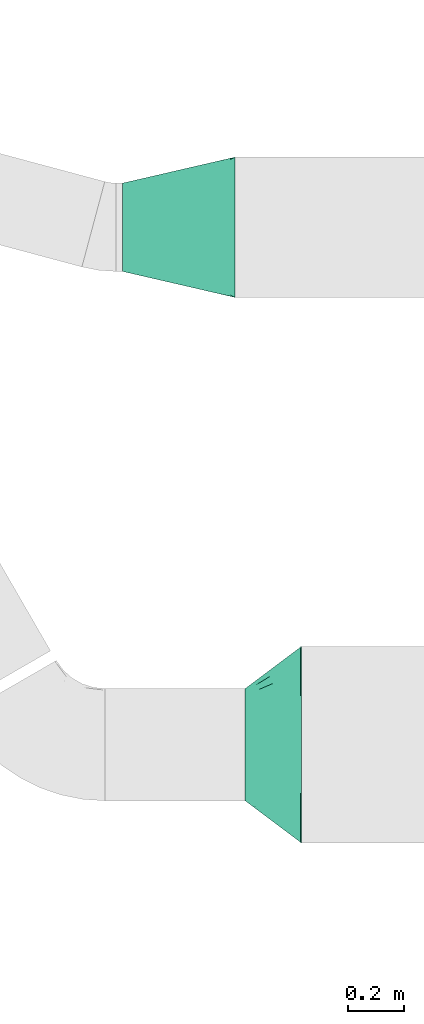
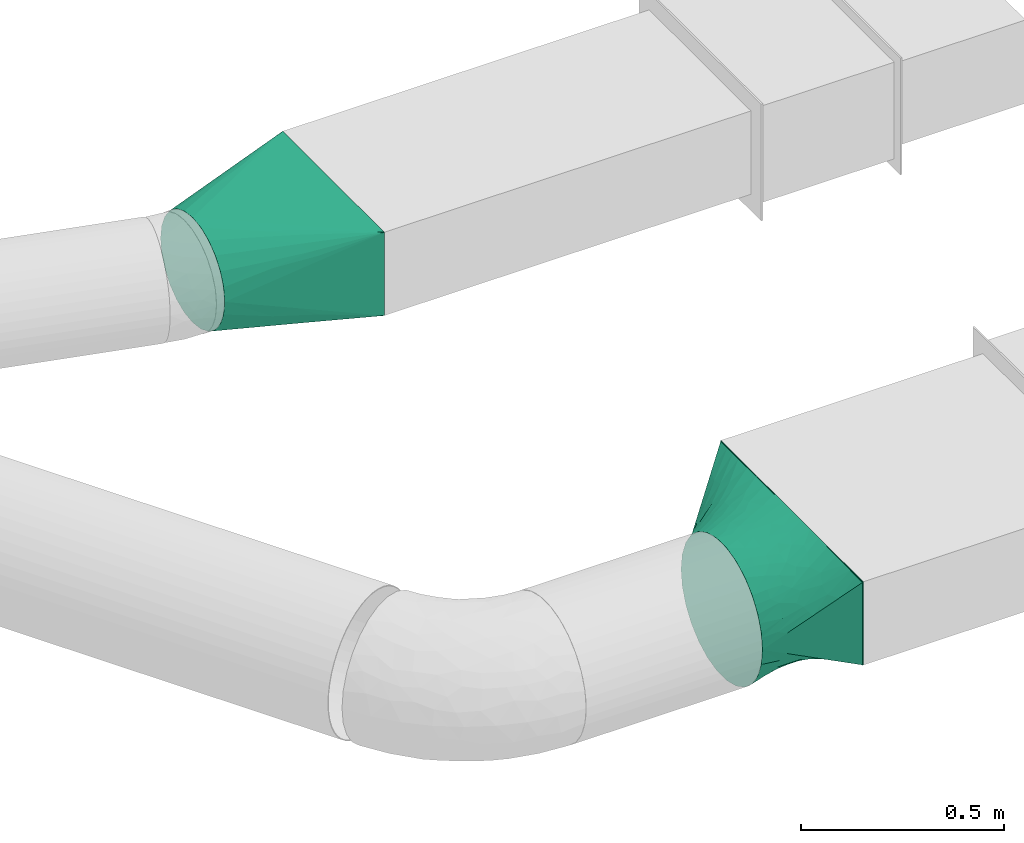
# One storey, part 33 of 36: 2 flow fittings.
"""IFC2X3 building model written with IfcOpenShell, lengths in millimetres."""

from ifc_helpers import new_model, entity, si_unit, converted_unit, derived_unit, direction, frame, origin_with_axes, place, context, subcontext, project, spatial, open_shell, surface_model, source, transform, mapped, type_object, element, save


model = new_model("IFC2X3")

# Units and contexts
model_context = context("Model", 3, precision=0.01, world=frame((0.0, 4.29681676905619e-09, 0.0)), true_north=direction((4.01073788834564e-13, 1.0)))
plan_context = context("Plan", 3, precision=0.01, world=frame((0.0, 4.29681676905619e-09, 0.0)), true_north=direction((4.01073788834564e-13, 1.0)))
body_context = subcontext(model_context, "Body", "Model", "MODEL_VIEW")
ifc_project = project(units=[converted_unit("PLANEANGLEUNIT", "DEGREE", entity("IfcPositiveLengthMeasure", 0.0174532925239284), si_unit("PLANEANGLEUNIT", "RADIAN"), dimensions=[0, 0, 0, 0, 0, 0, 0]), si_unit("AREAUNIT", "SQUARE_METRE"), si_unit("LENGTHUNIT", "METRE", prefix="MILLI"), si_unit("MASSUNIT", "GRAM", prefix="KILO"), si_unit("POWERUNIT", "WATT"), si_unit("PRESSUREUNIT", "PASCAL"), si_unit("FORCEUNIT", "NEWTON", prefix="KILO"), si_unit("ELECTRICCURRENTUNIT", "AMPERE"), si_unit("THERMODYNAMICTEMPERATUREUNIT", "DEGREE_CELSIUS"), si_unit("TIMEUNIT", "SECOND"), si_unit("VOLUMEUNIT", "CUBIC_METRE"), derived_unit("LINEARVELOCITYUNIT", [(si_unit("LENGTHUNIT", "METRE"), 1), (si_unit("TIMEUNIT", "SECOND"), -1)]), derived_unit("VOLUMETRICFLOWRATEUNIT", [(si_unit("VOLUMEUNIT", "CUBIC_METRE"), 1), (si_unit("TIMEUNIT", "SECOND"), -1)]), derived_unit("THERMALTRANSMITTANCEUNIT", [(si_unit("POWERUNIT", "WATT"), 1), (si_unit("THERMODYNAMICTEMPERATUREUNIT", "KELVIN"), -1), (si_unit("AREAUNIT", "SQUARE_METRE"), -1)])], contexts=[model_context, plan_context])

# Site, building, storey
site_placement = place(None, frame((0.0, -4.29681676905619e-09, 0.0), z_axis=(0.0, 0.0, 1.0), x_axis=(1.0, 0.0, 0.0)))
site = spatial("IfcSite", under=ifc_project, at=site_placement, CompositionType="ELEMENT")
building_placement = place(site_placement, frame((0.0, 4.29681676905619e-09, 0.0), z_axis=(0.0, 0.0, 1.0), x_axis=(1.0, 0.0, 0.0)))
building = spatial("IfcBuilding", under=site, at=building_placement, Name="mc-building", CompositionType="ELEMENT")
storey_placement = place(building_placement, frame((0.0, 0.0, 204000.0), z_axis=(0.0, 0.0, 1.0), x_axis=(1.0, 0.0, 0.0)))
storey = spatial("IfcBuildingStorey", under=building, at=storey_placement, Name="Nivå D", CompositionType="ELEMENT", Elevation=204000.0)

# Flow fittings
duct_fitting_type_1 = type_object("IfcDuctFittingType", Name="Lindab LORU", PredefinedType="TRANSITION")
shared_shape_1 = source(origin_with_axes(), body_context, "Body", "SurfaceModel", [
    surface_model("IfcShellBasedSurfaceModel", [(0.0, -350.0, 125.0), (0.0, 350.0, 125.0), (0.0, 350.0, -125.0), (0.0, -350.0, -125.0), (198.0, -24.10734, 98.54178), (198.0, 24.10734, 98.54178), (198.0, 70.92098, 87.00325), (198.0, 113.61295, 64.59677), (198.0, -70.92098, 87.00325), (198.0, 177.09121, -7.05537), (198.0, 149.70215, 32.62453), (198.0, 194.18836, -52.13687), (198.0, -177.09121, -7.05537), (198.0, -113.61295, 64.59677), (198.0, -149.70215, 32.62453), (198.0, -200.0, -100.0), (198.0, -194.18836, -52.13687), (198.0, 200.0, -100.0), (198.0, 149.70215, -232.62454), (198.0, 194.18836, -147.86313), (198.0, 177.09121, -192.94464), (198.0, 113.61295, -264.59677), (198.0, 70.92098, -287.00325), (198.0, -194.18836, -147.86313), (198.0, -149.70215, -232.62454), (198.0, -177.09121, -192.94464), (198.0, -70.92098, -287.00325), (198.0, -24.10734, -298.54177), (198.0, -113.61295, -264.59677), (198.0, 24.10734, -298.54177), (200.0, 70.92098, -287.00325), (200.0, 113.61295, -264.59677), (200.0, 149.70215, -232.62454), (200.0, -24.10734, -298.54177), (200.0, 194.18836, -147.86313), (200.0, 200.0, -100.0), (200.0, 177.09121, -192.94464), (200.0, -149.70215, -232.62454), (200.0, -70.92098, -287.00325), (200.0, 24.10734, -298.54177), (200.0, -113.61295, -264.59677), (200.0, -194.18836, -147.86313), (200.0, -177.09121, -192.94464), (200.0, 177.09121, -7.05537), (200.0, -70.92098, 87.00325), (200.0, 113.61295, 64.59677), (200.0, 149.70215, 32.62453), (200.0, -24.10734, 98.54178), (200.0, 70.92098, 87.00325), (200.0, 24.10734, 98.54178), (200.0, -200.0, -100.0), (200.0, -177.09121, -7.05537), (200.0, -194.18836, -52.13687), (200.0, -113.61295, 64.59677), (200.0, -149.70215, 32.62453), (200.0, 194.18836, -52.13687), (2.0, 350.0, 125.0), (2.0, -350.0, 125.0), (2.0, -350.0, -125.0), (2.0, 350.0, -125.0), (150.86866, -236.8485, -106.14141), (101.73732, -273.69701, -112.28284), (118.38462, -241.02984, -133.35218), (155.8511, -22.06059, -260.46584), (140.81261, 0.0, -248.21103), (174.63736, -2.7543, -277.7916), (49.81025, 60.16924, -166.67262), (78.66871, 65.87121, -190.08882), (74.1801, 39.18534, -188.66677), (200.0, 47.51416, -292.77252), (153.96537, 47.99806, -255.47073), (174.45748, 63.80583, -268.84451), (143.22139, -70.49342, -241.82236), (171.31887, -84.41632, -259.58882), (140.80272, -94.29218, -233.09173), (200.0, -185.63978, -170.40388), (169.31912, -180.92902, -190.32465), (0.0, -87.5, -125.0), (0.0, -43.75, -125.0), (37.07289, -65.45856, -155.78053), (83.89772, -184.7604, -165.70487), (114.04424, -187.86417, -174.6824), (80.89149, -210.48595, -154.73627), (127.65985, 29.63112, -235.40696), (153.719, 22.58113, -258.57221), (171.50625, -161.39413, -211.63479), (200.0, -131.65755, -248.61066), (87.6909, -264.30129, -127.25434), (0.0, 131.25, -125.0), (0.0, 175.0, -125.0), (47.24983, 150.44168, -155.1024), (99.12187, -139.79786, -189.33806), (80.70389, -160.80724, -172.17105), (71.17894, -138.58073, -172.28574), (46.27455, 32.45166, -164.97549), (104.66807, 73.24301, -210.20723), (127.65985, 57.83166, -231.73313), (101.35433, 48.13041, -211.04397), (161.15793, -218.39174, -134.46554), (143.52901, 174.52619, -192.11829), (174.50902, 165.1938, -208.67215), (154.51991, 156.06586, -209.97723), (123.73027, -26.08123, -232.29609), (108.36815, 188.56889, -172.62985), (133.9646, 196.11116, -172.67756), (161.15793, 218.39174, -134.46554), (200.0, 197.09418, -123.93157), (157.6743, 201.40949, -165.37902), (118.38462, 241.02986, -133.35218), (85.8346, 244.8689, -138.97016), (108.27595, 216.08737, -155.86994), (82.89454, 227.53573, -147.64925), (109.19257, -164.75566, -184.94536), (200.0, 185.63978, -170.40388), (161.7797, 185.02397, -185.29401), (85.80051, 266.49496, -126.55457), (149.05673, 71.80944, -246.16975), (140.81261, 94.29197, -233.09916), (170.40631, 104.46708, -250.31953), (143.52901, -174.52619, -192.11831), (0.0, -306.24998, -125.0), (27.86597, -307.39879, -124.63814), (72.98974, -69.23686, -185.05137), (59.15633, -100.35019, -170.37156), (200.0, -163.39668, -212.78458), (34.12392, 181.19332, -143.4434), (79.06917, 174.91049, -166.98528), (143.54772, -155.55668, -205.61757), (99.96715, -97.13381, -201.7485), (98.89133, 97.57199, -200.84196), (126.82729, 133.23272, -208.61922), (119.35641, 160.32192, -191.82145), (153.96537, -47.99807, -255.47071), (200.0, -47.51416, -292.77252), (101.32963, -48.13049, -211.02308), (72.6947, -41.59299, -187.23999), (94.65156, -4.73708, -207.79649), (101.73732, 273.69701, -112.28284), (150.86866, 236.8485, -106.14141), (121.82133, -118.27247, -211.31817), (154.53272, 136.13233, -223.21138), (200.0, 131.65755, -248.61066), (74.56813, 152.24485, -171.11614), (95.83323, 22.02618, -208.33588), (127.6475, -50.64183, -232.89004), (126.82729, -140.90518, -205.16202), (165.11803, -111.34086, -243.32975), (200.0, 92.26696, -275.80001), (147.3518, 116.03167, -229.27227), (82.64169, -242.17904, -140.56864), (108.27595, -216.08736, -155.86994), (157.6743, -201.40949, -165.37904), (76.30299, -292.77275, -115.46213), (59.18695, -288.66143, -123.85906), (50.81936, -226.22187, -142.14931), (25.75548, -283.04299, -127.94175), (39.4416, -253.97543, -133.87204), (55.4036, -270.62729, -130.49075), (81.69069, 208.2616, -155.84356), (25.75548, 283.04301, -127.94175), (0.0, 306.24998, -125.0), (27.86597, 307.39879, -124.63814), (59.18695, 288.66143, -123.85906), (55.4036, 270.62729, -130.49075), (138.11045, -194.42409, -174.49585), (35.89134, -192.68591, -142.82079), (0.0, -175.0, -125.0), (49.01088, -155.28053, -155.42721), (24.61813, -225.2667, -134.30002), (0.0, -262.5, -125.0), (0.0, -240.62499, -125.0), (0.0, -218.75, -125.0), (41.76864, -126.50611, -154.56738), (27.80259, -100.80308, -146.42514), (25.93937, -10.93698, -147.66485), (0.0, -21.875, -125.0), (0.0, 0.0, -125.0), (28.58193, -38.42872, -149.57192), (0.0, 43.75, -125.0), (29.39303, 80.42003, -148.75586), (0.0, 87.5, -125.0), (29.63074, 108.77102, -147.32177), (58.89566, 86.42437, -171.81831), (64.30031, 119.96655, -171.24934), (0.0, 218.75, -125.0), (26.711, 232.43136, -134.20836), (49.71617, 207.15941, -146.0982), (30.19418, 256.8191, -131.93241), (56.12243, 238.81491, -139.99467), (0.0, -131.25, -125.0), (200.0, -197.09418, -123.93157), (99.12187, 139.79788, -189.33806), (111.81173, -73.04105, -215.99708), (51.87875, -21.86615, -170.13028), (49.07665, 5.30102, -167.92745), (76.30299, 292.77275, -115.46213), (25.43433, 330.92424, -121.82071), (154.53272, -136.13232, -223.21138), (200.0, 0.0, -298.54177), (200.0, 163.39668, -212.78458), (50.86866, -311.84852, -118.64141), (50.86866, 311.84852, -118.64141), (0.0, 262.5, -125.0), (200.0, -92.26696, -275.80001), (25.43433, -330.92424, -121.82071), (165.83081, 103.43359, 81.78558), (133.6904, 118.33917, 85.53678), (129.59446, 94.52075, 95.06027), (162.20431, 47.97531, 100.20703), (163.15141, 13.48569, 104.25001), (162.14483, 79.49143, 92.10325), (200.0, 163.39668, 12.78458), (165.19762, 178.68308, 27.42477), (163.62984, 161.49085, 45.41874), (155.54627, 135.96685, 68.32468), (100.84863, -218.11456, 53.3268), (49.16656, -223.14061, 93.24694), (59.14225, -250.18827, 77.78128), (38.986, 125.89127, 113.70224), (98.20789, 139.85329, 90.55793), (44.34353, 150.61802, 108.93806), (61.14725, -189.45657, 93.6353), (0.0, -218.75, 125.0), (200.0, 0.0, 98.54178), (163.37217, -13.19791, 104.23692), (200.0, 196.00695, -67.11432), (167.65892, 219.47603, -45.81728), (0.0, 0.0, 125.0), (0.0, -43.75, 125.0), (48.99973, -30.60575, 118.38877), (43.24346, 35.83816, 119.00987), (94.61516, 48.14588, 110.72541), (45.15744, 65.41969, 117.31843), (87.70625, 78.70416, 107.99367), (62.54678, 104.8932, 109.76232), (128.46321, 0.0, 108.9421), (90.89316, -17.7793, 113.31993), (133.27904, -30.80887, 106.86837), (151.72636, 236.20522, -45.69216), (125.86318, 255.60262, -16.59608), (104.69725, 259.97256, 17.99242), (168.20281, -36.80293, 101.20997), (155.60711, -136.05495, 68.24439), (200.0, -131.65755, 48.61065), (0.0, -289.64602, 125.0), (59.56318, -280.02315, 67.30727), (150.42431, 196.81106, 21.80755), (200.0, 185.63978, -29.59612), (98.5058, -106.79327, 99.89934), (98.20789, -139.8533, 90.55793), (126.34867, -119.99673, 87.35823), (200.0, -196.00695, -67.11432), (152.16679, -218.70978, -9.99398), (167.60659, -219.47296, -45.65145), (64.2316, 9.55106, 116.90795), (200.0, -163.39668, 12.78458), (165.19762, -162.67655, 43.31116), (162.56675, -179.62417, 28.75058), (150.42431, -196.81106, 21.80755), (127.00233, 155.17607, 71.13474), (84.73632, 165.28188, 88.13217), (44.34352, -150.61802, 108.93806), (65.31969, -129.21018, 105.0061), (0.0, -131.25, 125.0), (163.04822, -106.69588, 81.12274), (60.57408, 250.12223, 76.45627), (109.39451, 244.75367, 24.38849), (61.46695, 279.23488, 65.34107), (164.79723, -82.64092, 90.43953), (200.0, -92.26696, 75.80001), (0.0, 218.75, 125.0), (48.82236, 223.802, 93.34561), (0.0, 262.5, 125.0), (130.39523, -176.60281, 56.28831), (151.72636, -236.20522, -45.69216), (102.13841, -261.67423, 20.55426), (107.72953, -245.77377, 25.81893), (126.39804, 28.70096, 107.9988), (99.45923, 109.56335, 98.94342), (127.81089, 66.76303, 102.37047), (94.61516, -48.14587, 110.72541), (138.86111, -63.27697, 101.06538), (45.15741, -65.41967, 117.31843), (62.54677, -104.8932, 109.76232), (87.70622, -78.70417, 107.99368), (114.72012, 197.1111, 54.42181), (61.14725, 189.45657, 93.6353), (93.93464, -170.15925, 81.6519), (200.0, -185.63978, -29.59612), (96.54728, -277.58954, 16.38431), (48.27364, -313.79476, 70.69216), (0.0, -316.79204, 125.0), (94.82868, -236.55346, 48.15794), (96.79331, -190.15858, 71.39469), (0.0, -175.0, 125.0), (0.0, -262.5, 125.0), (131.43631, -155.59236, 68.59595), (124.13682, -256.89738, -14.65392), (48.27364, 313.79476, 70.69216), (0.0, 316.79204, 125.0), (153.12648, 218.2821, -10.95089), (100.0, 275.0, 12.5), (100.84863, 218.11456, 53.3268), (119.31471, 226.55983, 27.52891), (0.0, 289.64602, 125.0), (0.0, 175.0, 125.0), (95.69282, 182.615, 75.50538), (0.0, -87.5, 125.0), (0.0, 131.25, 125.0), (0.0, 87.5, 125.0), (0.0, 43.75, 125.0), (200.0, -47.51416, 92.77251), (200.0, 47.51416, 92.77251), (129.59446, -94.52075, 95.06026), (200.0, 92.26696, 75.80001), (200.0, 131.65755, 48.61065), (130.39523, 176.60279, 56.28831)], [open_shell([[[0, 1, 2]], [[2, 3, 0]], [[4, 5, 6]], [[7, 8, 6]], [[8, 7, 9]], [[9, 7, 10]], [[8, 9, 11]], [[8, 12, 13]], [[8, 4, 6]], [[14, 13, 12]], [[15, 16, 12]], [[8, 15, 12]], [[11, 15, 8]], [[11, 17, 15]], [[18, 17, 19]], [[18, 19, 20]], [[18, 21, 22]], [[17, 18, 23]], [[23, 18, 22]], [[23, 24, 25]], [[23, 22, 24]], [[26, 24, 27]], [[28, 24, 26]], [[22, 27, 24]], [[22, 29, 27]], [[17, 23, 15]], [[30, 31, 32]], [[33, 30, 32]], [[34, 35, 32]], [[34, 32, 36]], [[33, 32, 35]], [[33, 37, 38]], [[33, 39, 30]], [[40, 38, 37]], [[41, 42, 37]], [[33, 41, 37]], [[35, 41, 33]], [[35, 43, 41]], [[41, 43, 44]], [[45, 43, 46]], [[47, 45, 48]], [[43, 45, 44]], [[48, 49, 47]], [[50, 51, 52]], [[50, 41, 51]], [[44, 53, 51]], [[54, 51, 53]], [[51, 41, 44]], [[45, 47, 44]], [[43, 35, 55]], [[23, 41, 15]], [[25, 42, 23]], [[40, 24, 28]], [[28, 26, 38]], [[25, 24, 37]], [[27, 33, 26]], [[23, 42, 41]], [[41, 50, 15]], [[38, 40, 28]], [[37, 24, 40]], [[37, 42, 25]], [[33, 38, 26]], [[27, 39, 33]], [[22, 30, 29]], [[21, 31, 22]], [[34, 20, 19]], [[19, 17, 34]], [[21, 18, 32]], [[18, 20, 36]], [[22, 31, 30]], [[30, 39, 29]], [[34, 36, 20]], [[34, 17, 35]], [[21, 32, 31]], [[18, 36, 32]], [[29, 39, 27]], [[11, 55, 17]], [[9, 43, 11]], [[45, 10, 7]], [[7, 6, 48]], [[9, 10, 46]], [[5, 49, 6]], [[11, 43, 55]], [[55, 35, 17]], [[48, 45, 7]], [[46, 10, 45]], [[46, 43, 9]], [[49, 48, 6]], [[5, 47, 49]], [[53, 8, 13]], [[4, 8, 44]], [[12, 16, 51]], [[54, 14, 12]], [[53, 13, 14]], [[52, 16, 15]], [[44, 47, 4]], [[44, 8, 53]], [[53, 14, 54]], [[12, 51, 54]], [[52, 51, 16]], [[50, 52, 15]], [[4, 47, 5]], [[56, 57, 58]], [[58, 59, 56]], [[58, 57, 0]], [[0, 3, 58]], [[59, 58, 3]], [[3, 2, 59]], [[56, 59, 2]], [[2, 1, 56]], [[57, 56, 1]], [[1, 0, 57]], [[44, 49, 47]], [[54, 44, 53]], [[44, 32, 49]], [[51, 44, 54]], [[44, 51, 50]], [[48, 46, 45]], [[46, 48, 49]], [[46, 49, 43]], [[43, 49, 55]], [[49, 32, 55]], [[55, 32, 35]], [[51, 52, 50]], [[50, 41, 42]], [[44, 42, 32]], [[42, 40, 32]], [[40, 42, 37]], [[38, 32, 40]], [[35, 36, 34]], [[32, 36, 35]], [[39, 30, 38]], [[31, 38, 30]], [[31, 32, 38]], [[38, 33, 39]], [[44, 50, 42]], [[0, 3, 50]], [[60, 61, 62]], [[63, 64, 65]], [[66, 67, 68]], [[69, 70, 71]], [[72, 73, 74]], [[42, 75, 76]], [[77, 78, 79]], [[80, 81, 82]], [[83, 84, 64]], [[37, 85, 86]], [[87, 62, 61]], [[88, 89, 90]], [[91, 92, 93]], [[94, 66, 68]], [[95, 96, 97]], [[60, 98, 50]], [[99, 100, 101]], [[63, 102, 64]], [[99, 103, 104]], [[105, 35, 106]], [[107, 108, 105]], [[84, 65, 64]], [[109, 110, 111]], [[91, 112, 92]], [[107, 113, 114]], [[115, 108, 109]], [[116, 117, 118]], [[85, 76, 119]], [[3, 120, 121]], [[122, 123, 79]], [[76, 85, 124]], [[114, 100, 99]], [[125, 126, 90]], [[85, 119, 127]], [[91, 93, 128]], [[67, 129, 95]], [[130, 131, 101]], [[38, 132, 133]], [[134, 135, 136]], [[112, 81, 80]], [[60, 62, 98]], [[137, 138, 108]], [[91, 128, 139]], [[31, 140, 141]], [[126, 142, 90]], [[83, 143, 97]], [[116, 70, 96]], [[132, 73, 72]], [[102, 144, 134]], [[139, 145, 91]], [[146, 74, 73]], [[147, 30, 71]], [[140, 118, 148]], [[62, 87, 149]], [[62, 150, 151]], [[87, 152, 153]], [[154, 82, 149]], [[155, 156, 157]], [[105, 108, 138]], [[131, 103, 99]], [[158, 111, 110]], [[159, 160, 161]], [[162, 115, 163]], [[41, 98, 151]], [[150, 81, 164]], [[104, 114, 99]], [[108, 107, 110]], [[165, 166, 167]], [[168, 169, 170]], [[166, 165, 171]], [[91, 145, 112]], [[172, 173, 123]], [[123, 93, 172]], [[174, 175, 176]], [[123, 122, 128]], [[123, 173, 79]], [[175, 174, 177]], [[136, 64, 102]], [[178, 179, 66]], [[179, 180, 181]], [[180, 88, 181]], [[182, 183, 129]], [[78, 175, 177]], [[122, 135, 134]], [[90, 89, 125]], [[182, 179, 181]], [[181, 183, 182]], [[184, 185, 186]], [[187, 188, 185]], [[167, 166, 189]], [[151, 98, 62]], [[98, 190, 50]], [[126, 191, 142]], [[149, 82, 150]], [[103, 158, 110]], [[99, 101, 131]], [[80, 82, 165]], [[165, 167, 92]], [[165, 154, 168]], [[79, 177, 135]], [[134, 144, 192]], [[192, 122, 134]], [[128, 74, 139]], [[136, 193, 194]], [[157, 153, 121]], [[157, 121, 155]], [[115, 195, 137]], [[161, 2, 196]], [[136, 143, 83]], [[88, 90, 181]], [[183, 181, 90]], [[142, 183, 90]], [[130, 129, 191]], [[191, 129, 183]], [[67, 95, 97]], [[79, 135, 122]], [[136, 135, 193]], [[146, 139, 74]], [[145, 139, 197]], [[197, 127, 145]], [[112, 80, 92]], [[127, 112, 145]], [[81, 112, 119]], [[146, 86, 197]], [[112, 127, 119]], [[197, 85, 127]], [[124, 42, 76]], [[75, 41, 151]], [[164, 76, 151]], [[164, 81, 119]], [[82, 81, 150]], [[76, 164, 119]], [[150, 164, 151]], [[165, 92, 80]], [[93, 92, 167]], [[172, 93, 167]], [[128, 93, 123]], [[167, 189, 172]], [[173, 189, 77]], [[189, 173, 172]], [[79, 173, 77]], [[85, 37, 124]], [[182, 66, 179]], [[94, 176, 178]], [[67, 66, 182]], [[180, 179, 178]], [[178, 66, 94]], [[129, 67, 182]], [[67, 97, 68]], [[97, 143, 68]], [[68, 143, 194]], [[96, 83, 97]], [[143, 136, 194]], [[84, 83, 70]], [[136, 83, 64]], [[129, 117, 95]], [[117, 116, 96]], [[117, 96, 95]], [[83, 96, 70]], [[118, 31, 147]], [[71, 70, 116]], [[140, 101, 32]], [[147, 71, 118]], [[118, 117, 148]], [[118, 71, 116]], [[69, 39, 70]], [[71, 30, 69]], [[70, 39, 84]], [[65, 39, 198]], [[39, 65, 84]], [[133, 63, 33]], [[130, 117, 129]], [[130, 140, 148]], [[130, 148, 117]], [[130, 191, 131]], [[191, 126, 131]], [[103, 131, 126]], [[158, 126, 186]], [[104, 110, 107]], [[110, 104, 103]], [[114, 104, 107]], [[107, 34, 113]], [[100, 36, 199]], [[36, 100, 114]], [[152, 200, 153]], [[126, 158, 103]], [[188, 158, 186]], [[125, 184, 186]], [[188, 163, 109]], [[115, 109, 163]], [[110, 109, 108]], [[162, 201, 195]], [[108, 115, 137]], [[101, 100, 32]], [[188, 186, 185]], [[101, 140, 130]], [[162, 161, 201]], [[115, 162, 195]], [[163, 159, 161]], [[163, 161, 162]], [[2, 161, 160]], [[187, 163, 188]], [[202, 160, 159]], [[184, 202, 185]], [[187, 202, 159]], [[202, 187, 185]], [[163, 187, 159]], [[33, 63, 65]], [[132, 144, 102]], [[132, 102, 63]], [[136, 102, 134]], [[132, 72, 144]], [[196, 201, 161]], [[192, 74, 128]], [[192, 144, 72]], [[122, 192, 128]], [[63, 133, 132]], [[192, 72, 74]], [[146, 203, 40]], [[146, 197, 139]], [[146, 73, 203]], [[146, 40, 86]], [[73, 38, 203]], [[199, 32, 100]], [[132, 38, 73]], [[86, 85, 197]], [[140, 31, 118]], [[140, 32, 141]], [[149, 87, 157]], [[149, 157, 156]], [[62, 149, 150]], [[87, 61, 152]], [[121, 153, 200]], [[87, 153, 157]], [[121, 200, 204]], [[121, 120, 155]], [[120, 169, 155]], [[168, 170, 171]], [[169, 156, 155]], [[149, 156, 154]], [[168, 156, 169]], [[165, 168, 171]], [[156, 168, 154]], [[76, 75, 151]], [[3, 121, 204]], [[34, 107, 105]], [[36, 114, 113]], [[165, 82, 154]], [[174, 194, 193]], [[194, 176, 94]], [[174, 193, 177]], [[176, 194, 174]], [[94, 68, 194]], [[135, 177, 193]], [[79, 78, 177]], [[184, 125, 89]], [[126, 125, 186]], [[98, 41, 190]], [[35, 105, 138]], [[106, 34, 105]], [[183, 142, 191]], [[158, 188, 111]], [[198, 33, 65]], [[188, 109, 111]], [[2, 1, 35]], [[205, 206, 207]], [[49, 208, 209]], [[207, 210, 205]], [[211, 212, 213]], [[214, 206, 205]], [[215, 216, 217]], [[218, 219, 220]], [[221, 222, 216]], [[223, 209, 224]], [[43, 212, 211]], [[225, 35, 226]], [[227, 228, 229]], [[230, 231, 232]], [[232, 233, 234]], [[235, 236, 237]], [[238, 239, 240]], [[241, 224, 237]], [[242, 54, 243]], [[217, 244, 245]], [[246, 43, 247]], [[248, 249, 250]], [[251, 252, 253]], [[254, 229, 236]], [[255, 256, 257]], [[258, 215, 252]], [[259, 260, 219]], [[261, 262, 263]], [[242, 264, 250]], [[265, 266, 267]], [[268, 269, 44]], [[270, 271, 272]], [[257, 273, 258]], [[274, 253, 275]], [[245, 276, 217]], [[209, 235, 224]], [[235, 277, 254]], [[207, 206, 278]], [[207, 233, 279]], [[280, 281, 237]], [[282, 283, 284]], [[266, 226, 240]], [[285, 271, 286]], [[213, 259, 214]], [[273, 257, 256]], [[261, 221, 287]], [[252, 52, 288]], [[52, 252, 251]], [[289, 245, 290]], [[291, 0, 290]], [[275, 245, 289]], [[276, 292, 217]], [[291, 290, 245]], [[293, 273, 287]], [[252, 292, 276]], [[222, 221, 294]], [[217, 216, 295]], [[273, 296, 287]], [[275, 289, 297]], [[253, 274, 50]], [[292, 252, 215]], [[298, 299, 267]], [[35, 238, 226]], [[300, 55, 225]], [[267, 301, 298]], [[302, 303, 265]], [[298, 1, 299]], [[304, 272, 265]], [[226, 266, 300]], [[266, 303, 300]], [[300, 247, 55]], [[300, 303, 246]], [[300, 246, 247]], [[246, 302, 285]], [[265, 267, 304]], [[305, 286, 270]], [[265, 271, 302]], [[286, 305, 220]], [[306, 285, 286]], [[258, 273, 293]], [[288, 258, 252]], [[288, 51, 258]], [[272, 271, 265]], [[286, 271, 270]], [[216, 215, 293]], [[295, 216, 222]], [[282, 284, 280]], [[283, 282, 307]], [[308, 220, 305]], [[309, 234, 218]], [[263, 294, 261]], [[283, 307, 263]], [[218, 220, 308]], [[220, 219, 260]], [[221, 261, 294]], [[262, 261, 249]], [[309, 232, 234]], [[228, 282, 229]], [[310, 232, 309]], [[227, 254, 230]], [[307, 282, 228]], [[229, 282, 280]], [[236, 229, 280]], [[227, 229, 254]], [[237, 236, 280]], [[254, 236, 235]], [[284, 281, 280]], [[224, 235, 237]], [[269, 268, 264]], [[224, 241, 47]], [[311, 241, 281]], [[223, 49, 209]], [[208, 49, 312]], [[277, 235, 209]], [[279, 210, 207]], [[208, 279, 277]], [[208, 277, 209]], [[254, 277, 231]], [[281, 44, 311]], [[224, 47, 223]], [[281, 241, 237]], [[47, 241, 311]], [[230, 232, 310]], [[232, 231, 233]], [[248, 284, 283]], [[281, 284, 313]], [[279, 233, 231]], [[278, 233, 207]], [[277, 279, 231]], [[210, 208, 48]], [[208, 210, 279]], [[210, 314, 205]], [[251, 253, 50]], [[205, 45, 214]], [[214, 45, 315]], [[211, 213, 46]], [[214, 219, 206]], [[278, 219, 234]], [[219, 278, 206]], [[233, 278, 234]], [[314, 210, 48]], [[314, 45, 205]], [[276, 253, 252]], [[238, 240, 226]], [[225, 226, 300]], [[227, 230, 310]], [[231, 230, 254]], [[269, 264, 53]], [[256, 296, 273]], [[313, 264, 268]], [[44, 281, 268]], [[281, 313, 268]], [[250, 264, 313]], [[242, 53, 264]], [[248, 250, 313]], [[242, 250, 249]], [[284, 248, 313]], [[248, 283, 262]], [[246, 285, 212]], [[246, 212, 43]], [[212, 316, 213]], [[259, 213, 316]], [[214, 46, 213]], [[260, 306, 286]], [[219, 214, 259]], [[306, 259, 316]], [[220, 260, 286]], [[259, 306, 260]], [[285, 306, 316]], [[285, 316, 212]], [[285, 302, 271]], [[256, 242, 296]], [[54, 242, 256]], [[255, 54, 256]], [[242, 249, 296]], [[287, 221, 293]], [[296, 249, 287]], [[261, 287, 249]], [[258, 51, 257]], [[255, 257, 51]], [[216, 293, 221]], [[258, 293, 215]], [[275, 253, 276]], [[274, 275, 297]], [[245, 275, 276]], [[244, 217, 295]], [[244, 291, 245]], [[215, 217, 292]], [[266, 240, 267]], [[301, 267, 240]], [[239, 301, 240]], [[267, 299, 304]], [[265, 303, 266]], [[246, 303, 302]], [[309, 218, 308]], [[219, 218, 234]], [[248, 262, 249]], [[263, 262, 283]], [[48, 208, 312]], [[46, 214, 315]], [[53, 242, 243]]])]),
])
flow_fitting_1_placement = place(storey_placement, frame((530597.33499, 411882.76875, 2977.5), z_axis=(0.0, 0.0, 1.0), x_axis=(-1.0, 0.0, 0.0)))
element("IfcFlowFitting", 1, at=flow_fitting_1_placement, inside=storey, type_object=duct_fitting_type_1, Name="Lindab LORU", context=body_context, shape_type="MappedRepresentation", body=[
    mapped(shared_shape_1, transform((0.0, 0.0, 0.0), scale=1.0)),
])
duct_fitting_type_2 = type_object("IfcDuctFittingType", Name="magicirc_multi_shape_trans_001", PredefinedType="TRANSITION")
shared_shape_2 = source(origin_with_axes(), body_context, "Body", "SurfaceModel", [
    surface_model("IfcShellBasedSurfaceModel", [(400.0, -40.764, 152.13332), (400.0, -40.764, -152.13332), (400.0, 0.0, 157.5), (400.0, -111.36932, 111.36932), (400.0, -111.36932, -111.36932), (400.0, -78.75, 136.39901), (400.0, -136.39901, 78.75), (400.0, -152.13332, 40.764), (400.0, -152.13332, -40.764), (400.0, 40.764, 152.13332), (400.0, 78.75, -136.39901), (400.0, 78.75, 136.39901), (400.0, 111.36932, 111.36932), (400.0, 111.36932, -111.36932), (400.0, 136.39901, 78.75), (400.0, 136.39901, -78.75), (400.0, 152.13332, 40.764), (400.0, 40.764, -152.13332), (400.0, -157.5, 0.0), (400.0, -136.39901, -78.75), (400.0, -78.75, -136.39901), (400.0, 0.0, -157.5), (400.0, 152.13332, -40.764), (400.0, 157.5, 0.0), (0.0, -250.0, 125.0), (0.0, 250.0, 125.0), (0.0, 250.0, -125.0), (0.0, -250.0, -125.0), (292.16912, -122.16468, 134.86421), (199.05446, -181.01235, 118.21688), (185.03015, -166.8307, 132.39575), (276.97021, -110.66054, 142.14458), (276.97019, -180.59139, 72.21373), (108.08292, -182.44818, 133.78174), (162.12441, -162.83261, 136.58225), (216.16584, -114.89635, 142.56347), (216.16578, -200.01167, 57.44819), (162.12437, -210.91839, 88.4965), (108.08289, -225.00583, 91.22409), (185.03013, -199.57383, 99.65262), (292.16912, -168.56135, 88.46753), (292.16912, -168.56135, -88.46754), (199.05446, -181.01235, -118.21688), (185.03015, -199.57383, -99.65263), (276.97021, -180.59139, -72.21373), (276.97019, -110.66054, -142.14458), (108.08292, -225.00583, -91.22409), (162.12441, -210.91838, -88.4965), (216.16584, -200.01165, -57.44817), (216.16586, -114.89634, -142.56347), (162.12437, -162.83263, -136.58225), (108.08289, -182.44818, -133.78173), (185.03013, -166.83071, -132.39575), (292.16912, -122.16468, -134.86421), (292.16912, 122.16468, -134.86421), (199.05446, 181.01235, -118.21688), (185.03015, 166.8307, -132.39575), (276.97021, 110.66054, -142.14458), (276.97019, 180.59139, -72.21373), (108.08292, 182.44818, -133.78174), (162.12441, 162.83261, -136.58225), (216.16584, 114.89635, -142.56347), (216.16578, 200.01167, -57.44819), (162.12437, 210.91839, -88.4965), (108.08289, 225.00583, -91.22409), (185.03013, 199.57383, -99.65262), (292.16912, 168.56135, -88.46753), (292.16912, 168.56135, 88.46754), (199.05446, 181.01235, 118.21688), (185.03015, 199.57383, 99.65263), (276.97021, 180.59139, 72.21373), (276.97019, 110.66054, 142.14458), (108.08292, 225.00583, 91.22409), (162.12441, 210.91838, 88.4965), (216.16584, 200.01165, 57.44817), (216.16578, 114.89638, 142.56347), (162.12437, 162.83263, 136.58225), (108.08289, 182.44818, 133.78173), (185.03013, 166.83071, 132.39575), (292.16912, 122.16468, 134.86421)], [open_shell([[[0, 1, 2]], [[3, 4, 5]], [[5, 1, 0]], [[3, 6, 4]], [[6, 7, 8]], [[9, 10, 11]], [[12, 11, 13]], [[14, 15, 16]], [[12, 15, 14]], [[9, 2, 17]], [[8, 7, 18]], [[19, 4, 6]], [[5, 4, 20]], [[1, 21, 2]], [[5, 20, 1]], [[2, 21, 17]], [[16, 22, 23]], [[16, 15, 22]], [[11, 10, 13]], [[15, 12, 13]], [[10, 9, 17]], [[6, 8, 19]], [[24, 25, 26]], [[26, 27, 24]], [[28, 3, 5]], [[29, 30, 24]], [[28, 0, 31]], [[31, 0, 2]], [[18, 7, 32]], [[33, 34, 35]], [[31, 35, 34]], [[2, 35, 31]], [[24, 34, 33]], [[36, 32, 37]], [[0, 28, 5]], [[36, 18, 32]], [[31, 34, 30]], [[38, 37, 24]], [[32, 39, 37]], [[40, 3, 29]], [[36, 37, 38]], [[24, 30, 34]], [[40, 39, 32]], [[32, 7, 40]], [[39, 29, 24]], [[37, 39, 24]], [[31, 30, 28]], [[40, 7, 6]], [[30, 29, 28]], [[3, 28, 29]], [[3, 40, 6]], [[29, 39, 40]], [[24, 27, 18]], [[41, 4, 19]], [[42, 43, 27]], [[41, 8, 44]], [[44, 8, 18]], [[21, 1, 45]], [[46, 47, 48]], [[44, 48, 47]], [[18, 48, 44]], [[27, 47, 46]], [[49, 45, 50]], [[8, 41, 19]], [[49, 21, 45]], [[44, 47, 43]], [[51, 50, 27]], [[45, 52, 50]], [[53, 4, 42]], [[49, 50, 51]], [[27, 43, 47]], [[53, 52, 45]], [[45, 1, 53]], [[52, 42, 27]], [[50, 52, 27]], [[44, 43, 41]], [[53, 1, 20]], [[43, 42, 41]], [[4, 41, 42]], [[4, 53, 20]], [[42, 52, 53]], [[27, 26, 21]], [[54, 13, 10]], [[55, 56, 26]], [[54, 17, 57]], [[57, 17, 21]], [[23, 22, 58]], [[59, 60, 61]], [[57, 61, 60]], [[21, 61, 57]], [[26, 60, 59]], [[62, 58, 63]], [[17, 54, 10]], [[62, 23, 58]], [[57, 60, 56]], [[64, 63, 26]], [[58, 65, 63]], [[66, 13, 55]], [[62, 63, 64]], [[26, 56, 60]], [[66, 65, 58]], [[58, 22, 66]], [[65, 55, 26]], [[63, 65, 26]], [[57, 56, 54]], [[66, 22, 15]], [[56, 55, 54]], [[13, 54, 55]], [[13, 66, 15]], [[55, 65, 66]], [[26, 25, 23]], [[67, 12, 14]], [[68, 69, 25]], [[67, 16, 70]], [[70, 16, 23]], [[2, 9, 71]], [[72, 73, 74]], [[70, 74, 73]], [[23, 74, 70]], [[25, 73, 72]], [[75, 71, 76]], [[16, 67, 14]], [[75, 2, 71]], [[70, 73, 69]], [[77, 76, 25]], [[71, 78, 76]], [[79, 12, 68]], [[75, 76, 77]], [[25, 69, 73]], [[79, 78, 71]], [[71, 9, 79]], [[78, 68, 25]], [[76, 78, 25]], [[70, 69, 67]], [[79, 9, 11]], [[69, 68, 67]], [[12, 67, 68]], [[12, 79, 11]], [[68, 78, 79]], [[25, 24, 2]]])]),
])
flow_fitting_2_placement = place(storey_placement, frame((530360.63626, 413727.0, 2930.0), z_axis=(0.0, 0.0, 1.0), x_axis=(-1.0, 0.0, 0.0)))
element("IfcFlowFitting", 2, at=flow_fitting_2_placement, inside=storey, type_object=duct_fitting_type_2, Name="magicirc_multi_shape_trans_001", context=body_context, shape_type="MappedRepresentation", body=[
    mapped(shared_shape_2, transform((0.0, 0.0, 0.0), scale=1.0)),
])

save(model, "model.ifc")
